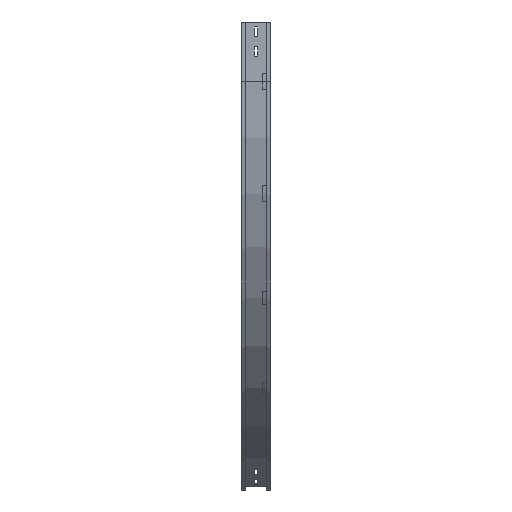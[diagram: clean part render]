
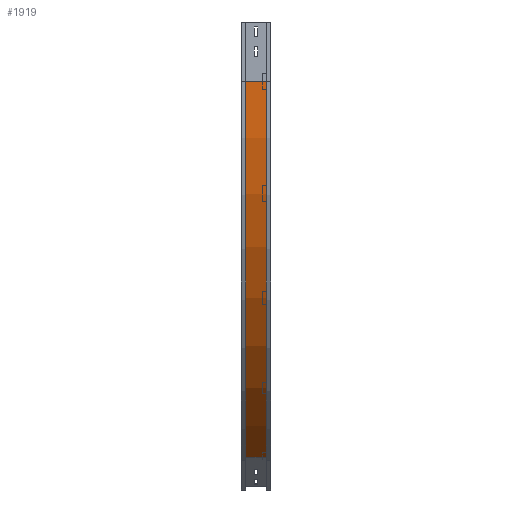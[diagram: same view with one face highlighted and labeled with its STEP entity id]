
A CAD part, left-side view. The second image highlights one B-rep face of the part: STEP entity #1919.
In plain terms, the highlighted cylindrical face has radius 1100 mm (diameter 2200 mm), a partial arc.
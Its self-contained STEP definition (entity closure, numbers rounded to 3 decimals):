
#31 = EDGE_CURVE ( 'NONE', #1177, #252, #1697, .T. ) ;
#39 = AXIS2_PLACEMENT_3D ( 'NONE', #1994, #2010, #2774 ) ;
#252 = VERTEX_POINT ( 'NONE', #1221 ) ;
#832 = CARTESIAN_POINT ( 'NONE',  ( 1109., 63., -150. ) ) ;
#1019 = VECTOR ( 'NONE', #1800, 1000. ) ;
#1177 = VERTEX_POINT ( 'NONE', #2595 ) ;
#1192 = AXIS2_PLACEMENT_3D ( 'NONE', #832, #1570, #2613 ) ;
#1221 = CARTESIAN_POINT ( 'NONE',  ( 559., 63., -1102.628 ) ) ;
#1238 = CARTESIAN_POINT ( 'NONE',  ( 559., 12., -1102.628 ) ) ;
#1312 = ORIENTED_EDGE ( 'NONE', *, *, #2035, .F. ) ;
#1488 = VERTEX_POINT ( 'NONE', #2525 ) ;
#1515 = VERTEX_POINT ( 'NONE', #2305 ) ;
#1570 = DIRECTION ( 'NONE',  ( 0., -1., 0. ) ) ;
#1670 = DIRECTION ( 'NONE',  ( -1., 0., 0. ) ) ;
#1697 = CIRCLE ( 'NONE', #1192, 1100. ) ;
#1771 = EDGE_CURVE ( 'NONE', #1515, #1488, #2094, .T. ) ;
#1786 = LINE ( 'NONE', #1238, #1019 ) ;
#1800 = DIRECTION ( 'NONE',  ( 0., -1., 0. ) ) ;
#1919 = ADVANCED_FACE ( 'NONE', ( #3083 ), #3013, .T. ) ;
#1994 = CARTESIAN_POINT ( 'NONE',  ( 1109., 0., -150. ) ) ;
#2010 = DIRECTION ( 'NONE',  ( 0., -1., 0. ) ) ;
#2035 = EDGE_CURVE ( 'NONE', #1177, #1515, #2370, .T. ) ;
#2064 = ORIENTED_EDGE ( 'NONE', *, *, #31, .T. ) ;
#2094 = CIRCLE ( 'NONE', #2805, 1100. ) ;
#2305 = CARTESIAN_POINT ( 'NONE',  ( 9., 12., -150. ) ) ;
#2370 = LINE ( 'NONE', #2583, #3191 ) ;
#2432 = EDGE_CURVE ( 'NONE', #252, #1488, #1786, .T. ) ;
#2456 = CARTESIAN_POINT ( 'NONE',  ( 1109., 12., -150. ) ) ;
#2517 = ORIENTED_EDGE ( 'NONE', *, *, #2432, .T. ) ;
#2525 = CARTESIAN_POINT ( 'NONE',  ( 559., 12., -1102.628 ) ) ;
#2583 = CARTESIAN_POINT ( 'NONE',  ( 9., 12., -150. ) ) ;
#2595 = CARTESIAN_POINT ( 'NONE',  ( 9., 63., -150. ) ) ;
#2613 = DIRECTION ( 'NONE',  ( -1., 0., 0. ) ) ;
#2740 = DIRECTION ( 'NONE',  ( 0., -1., 0. ) ) ;
#2774 = DIRECTION ( 'NONE',  ( 0., 0., -1. ) ) ;
#2805 = AXIS2_PLACEMENT_3D ( 'NONE', #2456, #2740, #1670 ) ;
#2891 = DIRECTION ( 'NONE',  ( 0., -1., 0. ) ) ;
#3013 = CYLINDRICAL_SURFACE ( 'NONE', #39, 1100. ) ;
#3083 = FACE_OUTER_BOUND ( 'NONE', #3223, .T. ) ;
#3191 = VECTOR ( 'NONE', #2891, 1000. ) ;
#3223 = EDGE_LOOP ( 'NONE', ( #3342, #1312, #2064, #2517 ) ) ;
#3342 = ORIENTED_EDGE ( 'NONE', *, *, #1771, .F. ) ;
